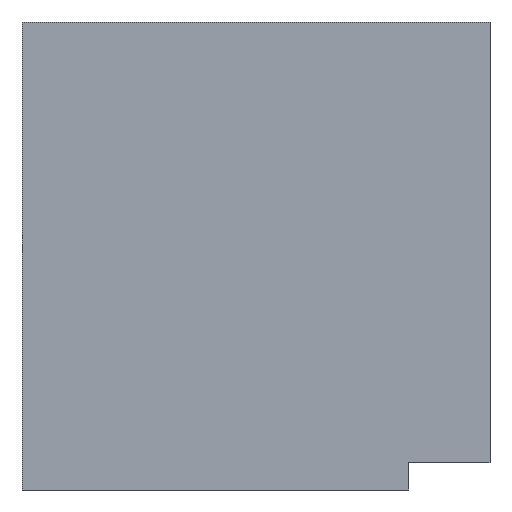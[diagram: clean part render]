
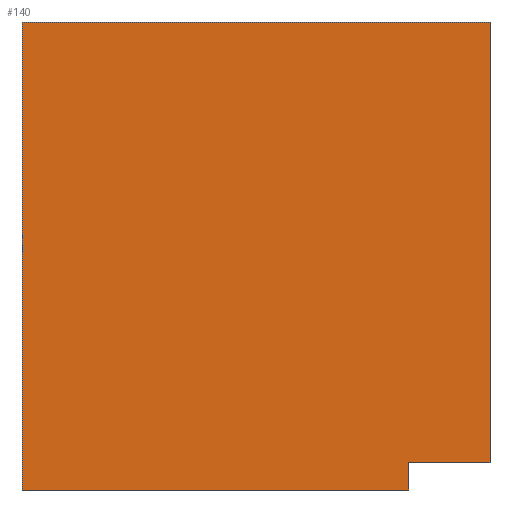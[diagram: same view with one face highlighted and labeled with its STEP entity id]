
A CAD part, left-side view. The second image highlights one B-rep face of the part: STEP entity #140.
In plain terms, the highlighted planar face has unit normal (-1, 0, 0).
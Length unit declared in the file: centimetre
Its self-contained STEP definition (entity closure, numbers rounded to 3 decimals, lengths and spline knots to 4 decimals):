
#27 = CARTESIAN_POINT ( 'NONE',  ( 0., 0., 1000. ) ) ;
#54 = DIRECTION ( 'NONE',  ( 0., 0., -1. ) ) ;
#56 = ORIENTED_EDGE ( 'NONE', *, *, #488, .T. ) ;
#76 = LINE ( 'NONE', #165, #87 ) ;
#78 = VECTOR ( 'NONE', #294, 100. ) ;
#87 = VECTOR ( 'NONE', #171, 100. ) ;
#96 = VERTEX_POINT ( 'NONE', #548 ) ;
#99 = LINE ( 'NONE', #270, #200 ) ;
#100 = EDGE_CURVE ( 'NONE', #96, #285, #179, .T. ) ;
#101 = LINE ( 'NONE', #275, #325 ) ;
#102 = VECTOR ( 'NONE', #346, 100. ) ;
#112 = VECTOR ( 'NONE', #521, 100. ) ;
#119 = CARTESIAN_POINT ( 'NONE',  ( 0., 0., 57.8595 ) ) ;
#140 = ADVANCED_FACE ( 'NONE', ( #382 ), #429, .F. ) ;
#165 = CARTESIAN_POINT ( 'NONE',  ( 0., 1000., 0. ) ) ;
#171 = DIRECTION ( 'NONE',  ( 0., -1., 0. ) ) ;
#179 = LINE ( 'NONE', #267, #102 ) ;
#191 = DIRECTION ( 'NONE',  ( 1., 0., 0. ) ) ;
#200 = VECTOR ( 'NONE', #229, 100. ) ;
#201 = CARTESIAN_POINT ( 'NONE',  ( 0., 173.2952, 0. ) ) ;
#213 = CARTESIAN_POINT ( 'NONE',  ( 0., 1000., 0. ) ) ;
#229 = DIRECTION ( 'NONE',  ( 0., 0., -1. ) ) ;
#266 = ORIENTED_EDGE ( 'NONE', *, *, #361, .T. ) ;
#267 = CARTESIAN_POINT ( 'NONE',  ( 0., 173.2952, 57.8595 ) ) ;
#269 = VERTEX_POINT ( 'NONE', #213 ) ;
#270 = CARTESIAN_POINT ( 'NONE',  ( 0., 0., 1000. ) ) ;
#275 = CARTESIAN_POINT ( 'NONE',  ( 0., 1000., 1000. ) ) ;
#279 = VERTEX_POINT ( 'NONE', #27 ) ;
#285 = VERTEX_POINT ( 'NONE', #119 ) ;
#289 = CARTESIAN_POINT ( 'NONE',  ( 0., 1000., 1000. ) ) ;
#293 = LINE ( 'NONE', #499, #78 ) ;
#294 = DIRECTION ( 'NONE',  ( 0., 0., -1. ) ) ;
#308 = ORIENTED_EDGE ( 'NONE', *, *, #323, .F. ) ;
#323 = EDGE_CURVE ( 'NONE', #96, #501, #293, .T. ) ;
#325 = VECTOR ( 'NONE', #54, 100. ) ;
#345 = ORIENTED_EDGE ( 'NONE', *, *, #432, .F. ) ;
#346 = DIRECTION ( 'NONE',  ( 0., -1., 0. ) ) ;
#355 = LINE ( 'NONE', #482, #112 ) ;
#361 = EDGE_CURVE ( 'NONE', #269, #501, #76, .T. ) ;
#382 = FACE_OUTER_BOUND ( 'NONE', #508, .T. ) ;
#429 = PLANE ( 'NONE',  #536 ) ;
#432 = EDGE_CURVE ( 'NONE', #279, #285, #99, .T. ) ;
#463 = ORIENTED_EDGE ( 'NONE', *, *, #100, .T. ) ;
#471 = EDGE_CURVE ( 'NONE', #520, #279, #355, .T. ) ;
#482 = CARTESIAN_POINT ( 'NONE',  ( 0., 1000., 1000. ) ) ;
#488 = EDGE_CURVE ( 'NONE', #520, #269, #101, .T. ) ;
#499 = CARTESIAN_POINT ( 'NONE',  ( 0., 173.2952, 57.8595 ) ) ;
#501 = VERTEX_POINT ( 'NONE', #201 ) ;
#508 = EDGE_LOOP ( 'NONE', ( #308, #463, #345, #543, #56, #266 ) ) ;
#520 = VERTEX_POINT ( 'NONE', #289 ) ;
#521 = DIRECTION ( 'NONE',  ( 0., -1., 0. ) ) ;
#536 = AXIS2_PLACEMENT_3D ( 'NONE', #545, #191, #551 ) ;
#543 = ORIENTED_EDGE ( 'NONE', *, *, #471, .F. ) ;
#545 = CARTESIAN_POINT ( 'NONE',  ( 0., 1000., 1000. ) ) ;
#548 = CARTESIAN_POINT ( 'NONE',  ( 0., 173.2952, 57.8595 ) ) ;
#551 = DIRECTION ( 'NONE',  ( 0., 0., -1. ) ) ;
